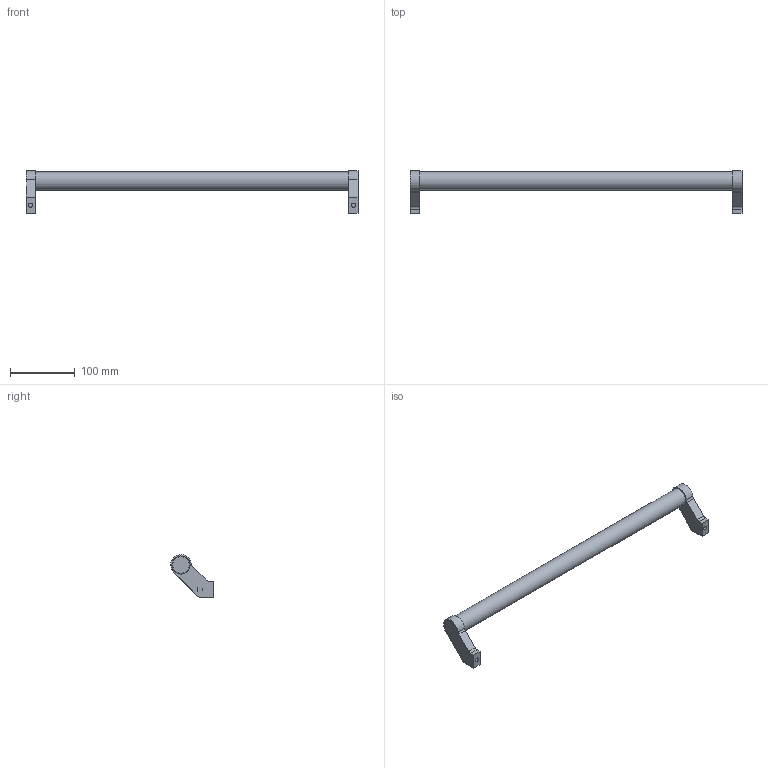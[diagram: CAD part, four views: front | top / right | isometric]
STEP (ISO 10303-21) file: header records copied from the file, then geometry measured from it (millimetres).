
FILE_DESCRIPTION( ( 'STEP AP203' ), '1' );
FILE_NAME( 'C:/Temp/Ganter_Step_05_03_2020/data/1_2/gn333/Tubular handle GN 333-28-500-B-SW.stp', '2020-03-05T10:16:34', ( 'License CC BY-ND 4.0' ), ( 'CADENAS' ), ' ', 'PARTsolutions', ' ' );
FILE_SCHEMA( ( 'CONFIG_CONTROL_DESIGN' ) );
Length unit declared in the file: millimetre
Products named in the file (1): _Tubular handle GN 333-28-500-B-SW
Bounding box: 514 x 65.95 x 65.97 mm (x, y, z)
Volume: 358553.2 mm3; surface area: 59609.1 mm2
Topology: 1 solids, 1 shells, 53 faces, 115 edges, 76 vertices
Faces by surface type: plane 32, cylinder 19, torus 2
Full cylindrical faces by diameter (mm): 6.5 x2, 11 x2, 11.4 x2, 12 x2, 28 x3
Entity records: 1424 total; most frequent: CARTESIAN_POINT 272, DIRECTION 240, ORIENTED_EDGE 196, EDGE_CURVE 98, AXIS2_PLACEMENT_3D 96, EDGE_LOOP 76, VERTEX_POINT 70, FACE_OUTER_BOUND 64
